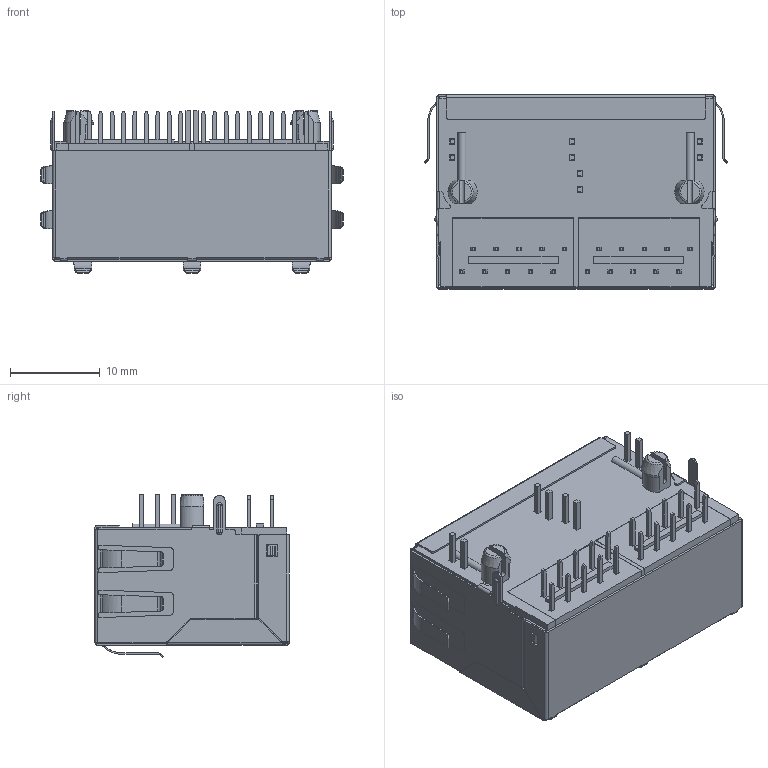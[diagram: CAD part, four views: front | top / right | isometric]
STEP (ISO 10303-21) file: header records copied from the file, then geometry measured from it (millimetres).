
FILE_DESCRIPTION((''),'2;1');
FILE_NAME('DGKYD212Q070FH4A4D_ASM','2026-03-23T17:23:23',('DGKYD'),(''),'CREO PARAMETRIC BY PTC INC, 2019010','CREO PARAMETRIC BY PTC INC, 2019010','');
FILE_SCHEMA(('CONFIG_CONTROL_DESIGN'));
Products named in the file (32): KBZT_35; 2CX_18; 2PDZ_6_1; 2PDZ_6_2; 2PDZ_6_3; 2PDZ_6_4; 2PDZ_6_5; 2PDZ_6_6; 2PDZ_6_7; 2PDZ_6_8; 2PDZ_6_9; 2PDZ_6_10; 2PDZ_6_ASM; JD_1_1; JD_1_2; JD_1_3; JD_1_4; JD_1_5; JD_1_6; JD_1_7; JD_1_8; JD_1_ASM; MZ_1; 2PCB_1; KBOTK_11; 1_3; 2_7; 3_3; 4_8; KBOWDWTWHJTK_2; ASM0003_ASM_66_ASM; DGKYD212Q070FH4A4D_ASM
Assembly tree (36 placements, depth 4):
  DGKYD212Q070FH4A4D_ASM
    ASM0003_ASM_66_ASM
      KBZT_35
      2CX_18  x2
      2PDZ_6_ASM  x2
        2PDZ_6_1
        2PDZ_6_2
        2PDZ_6_3
        2PDZ_6_4
        2PDZ_6_5
        2PDZ_6_6
        2PDZ_6_7
        2PDZ_6_8
        2PDZ_6_9
        2PDZ_6_10
      JD_1_ASM  x2
        JD_1_1
        JD_1_2
        JD_1_3
        JD_1_4
        JD_1_5
        JD_1_6
        JD_1_7
        JD_1_8
      MZ_1  x2
      2PCB_1  x2
      KBOTK_11
      1_3
      2_7
      3_3
      4_8
      KBOWDWTWHJTK_2
Bounding box: 33.7 x 21.6 x 18.1 mm (x, y, z)
Volume: 5149.3 mm3; surface area: 18619.5 mm2
Topology: 49 solids, 49 shells, 5182 faces, 14653 edges, 9549 vertices
Faces by surface type: plane 3459, cylinder 1657, sphere 42, torus 12, bspline 8, cone 4
Entity records: 112649 total; most frequent: CARTESIAN_POINT 21047, ORIENTED_EDGE 19432, DIRECTION 18698, EDGE_CURVE 9716, VECTOR 7248, LINE 7248, VERTEX_POINT 6341, AXIS2_PLACEMENT_3D 5725
